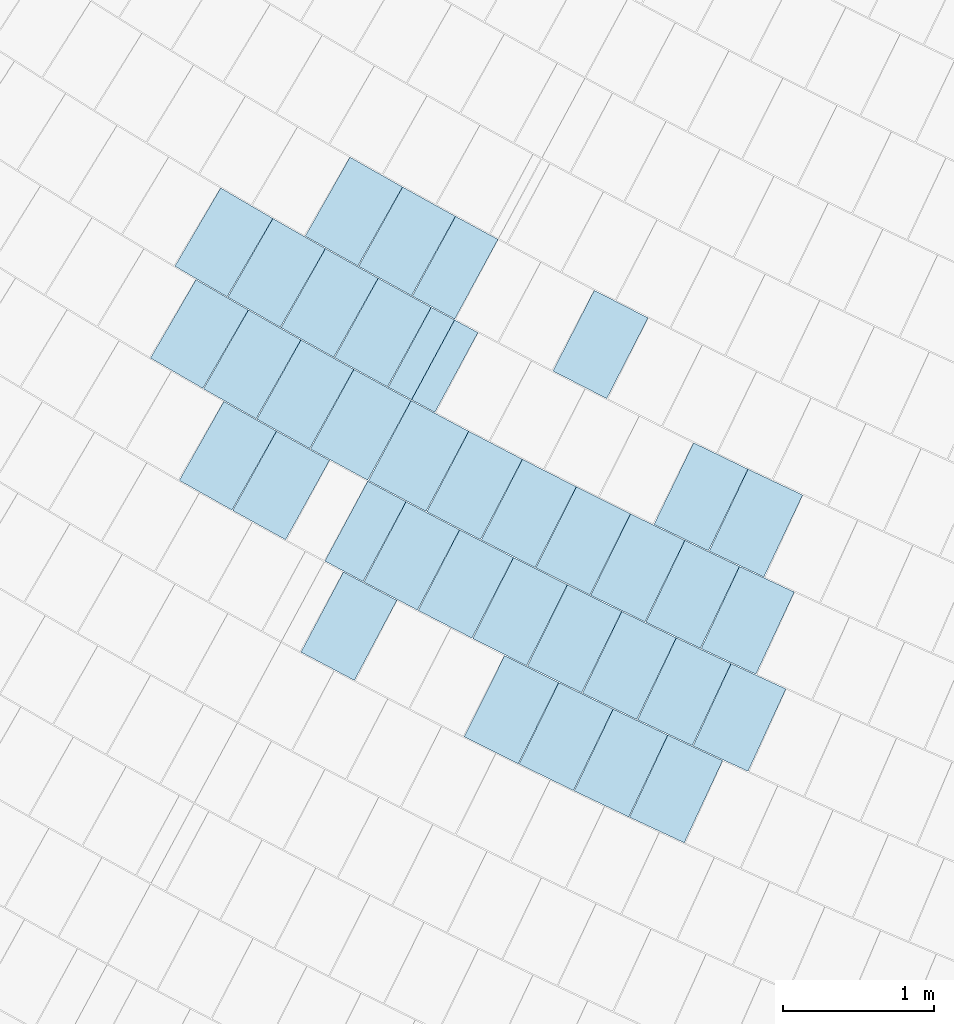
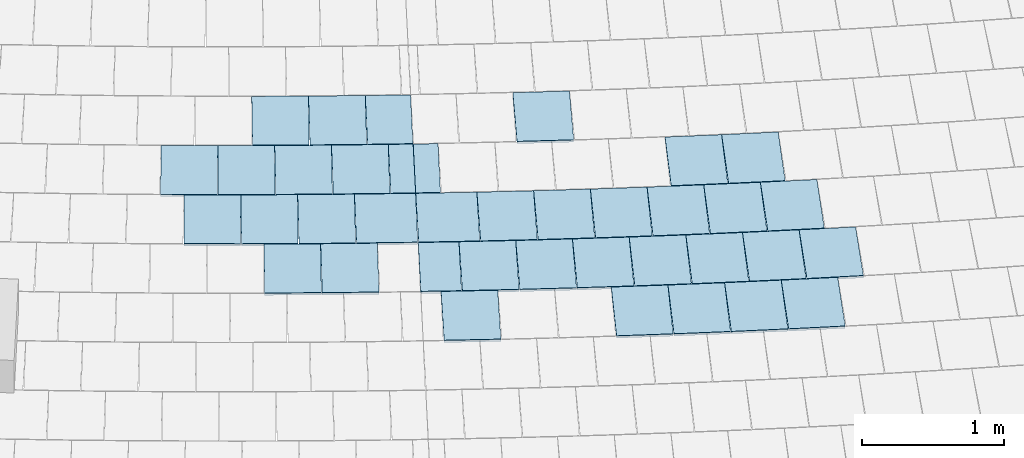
# One storey, part 106 of 438: 38 slabs.
"""IFC2X3 building model written with IfcOpenShell, lengths in millimetres."""

from ifc_helpers import new_model, entity, si_unit, converted_unit, derived_unit, direction, frame, frame_2d, origin, origin_2d_with_axis, place, context, subcontext, project, spatial, polyline, rectangle, outline, extrude, material, layer, layer_set, layer_usage, type_object, element, save


model = new_model("IFC2X3")

# Units and contexts
model_context = context("Model", 3, precision=0.01, world=origin(), true_north=direction((6.123031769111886e-17, 1.0)))
body_context = subcontext(model_context, "Body", "Model", "MODEL_VIEW")
ifc_project = project(units=[si_unit("LENGTHUNIT", "METRE", prefix="MILLI"), si_unit("AREAUNIT", "SQUARE_METRE"), si_unit("VOLUMEUNIT", "CUBIC_METRE"), converted_unit("PLANEANGLEUNIT", "DEGREE", entity("IfcRatioMeasure", 0.017453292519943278), si_unit("PLANEANGLEUNIT", "RADIAN"), dimensions=[0, 0, 0, 0, 0, 0, 0]), si_unit("MASSUNIT", "GRAM", prefix="KILO"), derived_unit("MASSDENSITYUNIT", [(si_unit("MASSUNIT", "GRAM", prefix="KILO"), 1), (si_unit("LENGTHUNIT", "METRE"), -3)]), derived_unit("MOMENTOFINERTIAUNIT", [(si_unit("LENGTHUNIT", "METRE"), 4)]), si_unit("TIMEUNIT", "SECOND"), si_unit("FREQUENCYUNIT", "HERTZ"), si_unit("THERMODYNAMICTEMPERATUREUNIT", "DEGREE_CELSIUS"), derived_unit("THERMALTRANSMITTANCEUNIT", [(si_unit("MASSUNIT", "GRAM", prefix="KILO"), 1), (si_unit("THERMODYNAMICTEMPERATUREUNIT", "KELVIN"), -1), (si_unit("TIMEUNIT", "SECOND"), -3)]), derived_unit("THERMALCONDUCTANCEUNIT", [(si_unit("MASSUNIT", "GRAM", prefix="KILO"), 1), (si_unit("LENGTHUNIT", "METRE"), 1), (si_unit("THERMODYNAMICTEMPERATUREUNIT", "KELVIN"), -1), (si_unit("TIMEUNIT", "SECOND"), -3)]), derived_unit("VOLUMETRICFLOWRATEUNIT", [(si_unit("LENGTHUNIT", "METRE"), 3), (si_unit("TIMEUNIT", "SECOND"), -1)]), derived_unit("MASSFLOWRATEUNIT", [(si_unit("MASSUNIT", "GRAM", prefix="KILO"), 1), (si_unit("TIMEUNIT", "SECOND"), -1)]), derived_unit("ROTATIONALFREQUENCYUNIT", [(si_unit("TIMEUNIT", "SECOND"), -1)]), si_unit("ELECTRICCURRENTUNIT", "AMPERE"), si_unit("ELECTRICVOLTAGEUNIT", "VOLT"), si_unit("POWERUNIT", "WATT"), converted_unit("FORCEUNIT", "KIP", entity("IfcRatioMeasure", 2.088543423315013e-05), si_unit("FORCEUNIT", "NEWTON"), dimensions=[1, 1, -2, 0, 0, 0, 0]), si_unit("ILLUMINANCEUNIT", "LUX"), si_unit("LUMINOUSFLUXUNIT", "LUMEN"), si_unit("LUMINOUSINTENSITYUNIT", "CANDELA"), derived_unit("USERDEFINED", [(si_unit("MASSUNIT", "GRAM", prefix="KILO"), -1), (si_unit("LENGTHUNIT", "METRE"), -2), (si_unit("TIMEUNIT", "SECOND"), 3), (si_unit("LUMINOUSFLUXUNIT", "LUMEN"), 1)]), derived_unit("USERDEFINED", [(si_unit("MASSUNIT", "GRAM", prefix="KILO"), 1), (si_unit("LENGTHUNIT", "METRE"), 3), (si_unit("TIMEUNIT", "SECOND"), -3), (si_unit("ELECTRICCURRENTUNIT", "AMPERE"), -2)]), derived_unit("USERDEFINED", [(si_unit("LENGTHUNIT", "METRE"), 2), (si_unit("TIMEUNIT", "SECOND"), -2)]), derived_unit("SOUNDPOWERUNIT", [(si_unit("MASSUNIT", "GRAM", prefix="KILO"), 1), (si_unit("LENGTHUNIT", "METRE"), 2), (si_unit("TIMEUNIT", "SECOND"), -3)]), derived_unit("SOUNDPRESSUREUNIT", [(si_unit("MASSUNIT", "GRAM", prefix="KILO"), 1), (si_unit("LENGTHUNIT", "METRE"), -1), (si_unit("TIMEUNIT", "SECOND"), -2)]), derived_unit("LINEARVELOCITYUNIT", [(si_unit("LENGTHUNIT", "METRE"), 1), (si_unit("TIMEUNIT", "SECOND"), -1)]), si_unit("PRESSUREUNIT", "PASCAL"), derived_unit("USERDEFINED", [(si_unit("LENGTHUNIT", "METRE"), -2), (si_unit("MASSUNIT", "GRAM", prefix="KILO"), 1), (si_unit("TIMEUNIT", "SECOND"), -2)]), derived_unit("LINEARFORCEUNIT", [(si_unit("MASSUNIT", "GRAM", prefix="KILO"), 1), (si_unit("LENGTHUNIT", "METRE"), 1), (si_unit("TIMEUNIT", "SECOND"), -2), (si_unit("LENGTHUNIT", "METRE"), -1)]), derived_unit("PLANARFORCEUNIT", [(si_unit("MASSUNIT", "GRAM", prefix="KILO"), 1), (si_unit("LENGTHUNIT", "METRE"), 1), (si_unit("TIMEUNIT", "SECOND"), -2), (si_unit("LENGTHUNIT", "METRE"), -2)]), derived_unit("SPECIFICHEATCAPACITYUNIT", [(si_unit("LENGTHUNIT", "METRE"), 2), (si_unit("TIMEUNIT", "SECOND"), -2), (si_unit("THERMODYNAMICTEMPERATUREUNIT", "KELVIN"), -1)]), derived_unit("VAPORPERMEABILITYUNIT", [(si_unit("TIMEUNIT", "SECOND"), 1), (si_unit("LENGTHUNIT", "METRE"), -1)]), derived_unit("DYNAMICVISCOSITYUNIT", [(si_unit("MASSUNIT", "GRAM", prefix="KILO"), 1), (si_unit("LENGTHUNIT", "METRE"), -1), (si_unit("TIMEUNIT", "SECOND"), -1)]), derived_unit("THERMALEXPANSIONCOEFFICIENTUNIT", [(si_unit("THERMODYNAMICTEMPERATUREUNIT", "KELVIN"), -1)])], contexts=[model_context])

# Site, building, storey
site_placement = place(None, frame((0.0, 0.0, 0.0), z_axis=(0.0, 0.0, 1.0), x_axis=(0.8191520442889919, 0.5735764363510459, 0.0)))
site = spatial("IfcSite", under=ifc_project, at=site_placement, Name="Default", CompositionType="ELEMENT")
building_placement = place(site_placement, origin())
building = spatial("IfcBuilding", under=site, at=building_placement, CompositionType="ELEMENT")
storey_placement = place(building_placement, origin())
storey = spatial("IfcBuildingStorey", under=building, at=storey_placement, Name="PLAN", CompositionType="ELEMENT", Elevation=0.0)

# Slabs
ifc_material = material(Name="Paint-01")
ifc_layer = layer(ifc_material, 20.00000000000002)
ifc_layer_set = layer_set([ifc_layer], Name="Floor:Slab-179:1000")
ifc_layer_usage = layer_usage(ifc_layer_set, "AXIS3", "POSITIVE", 0.0)
slab_type = type_object("IfcSlabType", Name="Floor:Slab-179:1000", PredefinedType="FLOOR", material=ifc_layer_set)
slab_1_placement = place(storey_placement, origin())
element("IfcSlab", 1, at=slab_1_placement, inside=storey, type_object=slab_type, material=ifc_layer_usage, Name="Floor:Slab-179:1000", ObjectType="Floor:Slab-179:1000", PredefinedType="FLOOR", context=body_context, shape_type="SweptSolid", body=[
    extrude(outline(polyline([(-200.00000134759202, -299.99999869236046), (200.0000045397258, -299.99999869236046), (200.0000013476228, 299.99999869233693), (-200.00000453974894, 299.9999986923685), (-200.00000134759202, -299.99999869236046)])), frame((-80661.75716893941, -87629.4757978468, 520.0), z_axis=(0.0, 0.0, -1.0), x_axis=(0.43849574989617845, -0.8987332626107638, 0.0)), (0.0, 0.0, 1.0), 20.000000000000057),
])
slab_2_placement = place(storey_placement, origin())
element("IfcSlab", 2, at=slab_2_placement, inside=storey, type_object=slab_type, material=ifc_layer_usage, Name="Floor:Slab-179:1000", ObjectType="Floor:Slab-179:1000", PredefinedType="FLOOR", context=body_context, shape_type="SweptSolid", body=[
    extrude(outline(polyline([(-159.8357111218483, -299.9999986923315), (159.8357143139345, -299.9999986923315), (159.8357111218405, 299.99999869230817), (-159.8357143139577, 299.99999869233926), (-159.8357111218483, -299.9999986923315)])), frame((-80501.49377957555, -87954.65114663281, 520.0), z_axis=(0.0, 0.0, -1.0), x_axis=(0.4465410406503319, -0.8947631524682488, 0.0)), (0.0, 0.0, 1.0), 20.000000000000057),
])
slab_3_placement = place(storey_placement, origin())
element("IfcSlab", 3, at=slab_3_placement, inside=storey, type_object=slab_type, material=ifc_layer_usage, Name="Floor:Slab-179:1000", ObjectType="Floor:Slab-179:1000", PredefinedType="FLOOR", context=body_context, shape_type="SweptSolid", body=[
    extrude(outline(polyline([(-200.00000134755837, -299.9999986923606), (200.00000453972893, -299.99999869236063), (200.0000013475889, 299.99999869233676), (-200.00000453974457, 299.9999986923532), (-200.00000134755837, -299.9999986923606)])), frame((-80836.70868583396, -87266.77875742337, 520.0), z_axis=(0.0, 0.0, -1.0), x_axis=(0.4304151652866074, -0.9026310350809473, 0.0)), (0.0, 0.0, 1.0), 20.000000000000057),
])
slab_4_placement = place(storey_placement, origin())
element("IfcSlab", 4, at=slab_4_placement, inside=storey, type_object=slab_type, material=ifc_layer_usage, Name="Floor:Slab-179:1000", ObjectType="Floor:Slab-179:1000", PredefinedType="FLOOR", context=body_context, shape_type="SweptSolid", body=[
    extrude(outline(polyline([(-200.0000013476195, -299.9999986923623), (200.00000453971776, -299.9999986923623), (200.00000134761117, 299.9999986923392), (-200.00000453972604, 299.9999986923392), (-200.0000013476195, -299.9999986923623)])), frame((-81487.67167908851, -87305.71940194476, 520.0), z_axis=(0.0, 0.0, -1.0), x_axis=(0.4255468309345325, -0.9049364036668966, 0.0)), (0.0, 0.0, 1.0), 20.000000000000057),
])
slab_5_placement = place(storey_placement, origin())
element("IfcSlab", 5, at=slab_5_placement, inside=storey, type_object=slab_type, material=ifc_layer_usage, Name="Floor:Slab-179:1000", ObjectType="Floor:Slab-179:1000", PredefinedType="FLOOR", context=body_context, shape_type="SweptSolid", body=[
    extrude(outline(polyline([(-87.62463995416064, -299.99999869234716), (87.6246431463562, -299.9999986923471), (87.62463995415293, 299.99999869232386), (-87.62464314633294, 299.99999869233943), (-87.62463995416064, -299.99999869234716)])), frame((-81009.68058432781, -88291.50491665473, 520.0), z_axis=(0.0, 0.0, -1.0), x_axis=(0.44942400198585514, -0.8933185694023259, 0.0)), (0.0, 0.0, 1.0), 20.000000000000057),
])
slab_6_placement = place(storey_placement, origin())
element("IfcSlab", 6, at=slab_6_placement, inside=storey, type_object=slab_type, material=ifc_layer_usage, Name="Floor:Slab-179:1000", ObjectType="Floor:Slab-179:1000", PredefinedType="FLOOR", context=body_context, shape_type="SweptSolid", body=[
    extrude(outline(polyline([(-200.0000013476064, -299.99999869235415), (200.0000045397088, -299.9999986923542), (200.0000013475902, 299.99999869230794), (-200.0000045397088, 299.9999986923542), (-200.0000013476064, -299.99999869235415)])), frame((-81314.71366506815, -87669.33151632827, 520.0), z_axis=(0.0, 0.0, -1.0), x_axis=(0.43354006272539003, -0.9011342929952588, 0.0)), (0.0, 0.0, 1.0), 19.999999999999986),
])
slab_7_placement = place(storey_placement, origin())
element("IfcSlab", 7, at=slab_7_placement, inside=storey, type_object=slab_type, material=ifc_layer_usage, Name="Floor:Slab-179:1000", ObjectType="Floor:Slab-179:1000", PredefinedType="FLOOR", context=body_context, shape_type="SweptSolid", body=[
    extrude(outline(polyline([(-200.00000134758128, -299.9999986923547), (200.00000453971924, -299.9999986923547), (200.00000134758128, 299.9999986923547), (-200.0000045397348, 299.9999986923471), (-200.00000134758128, -299.9999986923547)])), frame((-81138.54397109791, -88031.39847597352, 520.0), z_axis=(0.0, 0.0, -1.0), x_axis=(0.441499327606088, -0.8972615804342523, 0.0)), (0.0, 0.0, 1.0), 20.000000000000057),
])
slab_8_placement = place(storey_placement, origin())
element("IfcSlab", 8, at=slab_8_placement, inside=storey, type_object=slab_type, material=ifc_layer_usage, Name="Floor:Slab-179:1000", ObjectType="Floor:Slab-179:1000", PredefinedType="FLOOR", context=body_context, shape_type="SweptSolid", body=[
    extrude(outline(polyline([(-200.00000134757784, -299.99999869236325), (200.00000453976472, -299.9999986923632), (200.0000013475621, 299.999998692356), (-200.0000045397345, 299.9999986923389), (-200.00000134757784, -299.99999869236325)])), frame((-81657.40446227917, -86940.5906210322, 520.0), z_axis=(0.0, 0.0, -1.0), x_axis=(0.417520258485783, -0.9086676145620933, 0.0)), (0.0, 0.0, 1.0), 20.000000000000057),
])
slab_9_placement = place(storey_placement, origin())
element("IfcSlab", 9, at=slab_9_placement, inside=storey, type_object=slab_type, material=ifc_layer_usage, Name="Floor:Slab-179:1000", ObjectType="Floor:Slab-179:1000", PredefinedType="FLOOR", context=body_context, shape_type="SweptSolid", body=[
    extrude(outline(polyline([(-215.73772282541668, -299.9999986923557), (215.7377260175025, -299.99999869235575), (215.7377228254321, 299.99999869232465), (-215.7377260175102, 299.9999986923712), (-215.73772282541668, -299.9999986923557)])), frame((-81607.90374843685, -88447.17682607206, 520.0), z_axis=(0.0, 0.0, -1.0), x_axis=(0.4444188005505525, -0.8958191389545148, 0.0)), (0.0, 0.0, 1.0), 20.000000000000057),
])
slab_10_placement = place(storey_placement, origin())
element("IfcSlab", 10, at=slab_10_placement, inside=storey, type_object=slab_type, material=ifc_layer_usage, Name="Floor:Slab-179:1000", ObjectType="Floor:Slab-179:1000", PredefinedType="FLOOR", context=body_context, shape_type="SweptSolid", body=[
    extrude(outline(polyline([(-200.00000134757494, -299.99999869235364), (200.00000453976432, -299.99999869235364), (200.00000134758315, 299.9999986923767), (-200.0000045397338, 299.99999869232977), (-200.00000134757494, -299.99999869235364)])), frame((-81966.44109444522, -87708.64419158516, 520.0), z_axis=(0.0, 0.0, -1.0), x_axis=(0.4287026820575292, -0.9034456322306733, 0.0)), (0.0, 0.0, 1.0), 20.000000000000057),
])
slab_11_placement = place(storey_placement, origin())
element("IfcSlab", 11, at=slab_11_placement, inside=storey, type_object=slab_type, material=ifc_layer_usage, Name="Floor:Slab-179:1000", ObjectType="Floor:Slab-179:1000", PredefinedType="FLOOR", context=body_context, shape_type="SweptSolid", body=[
    extrude(outline(polyline([(-200.00000134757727, -299.99999869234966), (200.00000453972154, -299.9999986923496), (200.0000013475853, 299.9999986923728), (-200.0000045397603, 299.9999986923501), (-200.00000134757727, -299.99999869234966)])), frame((-81792.25139849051, -88071.62907817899, 520.0), z_axis=(0.0, 0.0, -1.0), x_axis=(0.43657739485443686, -0.8996667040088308, 0.0)), (0.0, 0.0, 1.0), 20.000000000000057),
])
slab_12_placement = place(storey_placement, origin())
element("IfcSlab", 12, at=slab_12_placement, inside=storey, type_object=slab_type, material=ifc_layer_usage, Name="Floor:Slab-179:1000", ObjectType="Floor:Slab-179:1000", PredefinedType="FLOOR", context=body_context, shape_type="SweptSolid", body=[
    extrude(outline(polyline([(-200.00000134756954, -299.9999986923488), (200.000004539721, -299.9999986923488), (200.00000134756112, 299.9999986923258), (-200.0000045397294, 299.9999986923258), (-200.00000134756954, -299.9999986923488)])), frame((-82137.45368642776, -87344.15170681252, 520.0), z_axis=(0.0, 0.0, -1.0), x_axis=(0.4207952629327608, -0.9071556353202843, 0.0)), (0.0, 0.0, 1.0), 20.000000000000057),
])
slab_13_placement = place(storey_placement, origin())
element("IfcSlab", 13, at=slab_13_placement, inside=storey, type_object=slab_type, material=ifc_layer_usage, Name="Floor:Slab-179:1000", ObjectType="Floor:Slab-179:1000", PredefinedType="FLOOR", context=body_context, shape_type="SweptSolid", body=[
    extrude(outline(polyline([(-200.0000013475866, -299.9999986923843), (200.0000045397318, -299.9999986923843), (200.0000013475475, 299.99999869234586), (-200.00000453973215, 299.9999986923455), (-200.0000013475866, -299.9999986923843)])), frame((-82269.34103647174, -88473.67992356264, 520.0), z_axis=(0.0, 0.0, -1.0), x_axis=(0.4395307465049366, -0.8982275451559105, 0.0)), (0.0, 0.0, 1.0), 19.999999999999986),
])
slab_14_placement = place(storey_placement, origin())
element("IfcSlab", 14, at=slab_14_placement, inside=storey, type_object=slab_type, material=ifc_layer_usage, Name="Floor:Slab-179:1000", ObjectType="Floor:Slab-179:1000", PredefinedType="FLOOR", context=body_context, shape_type="SweptSolid", body=[
    extrude(outline(polyline([(-200.00000134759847, -299.99999869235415), (200.0000045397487, -299.99999869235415), (200.00000134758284, 299.99999869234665), (-200.00000453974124, 299.9999986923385), (-200.00000134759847, -299.99999869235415)])), frame((-82444.728114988, -88111.30991890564, 520.0), z_axis=(0.0, 0.0, -1.0), x_axis=(0.4317712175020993, -0.9019831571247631, 0.0)), (0.0, 0.0, 1.0), 19.999999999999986),
])
slab_15_placement = place(storey_placement, origin())
element("IfcSlab", 15, at=slab_15_placement, inside=storey, type_object=slab_type, material=ifc_layer_usage, Name="Floor:Slab-179:1000", ObjectType="Floor:Slab-179:1000", PredefinedType="FLOOR", context=body_context, shape_type="SweptSolid", body=[
    extrude(outline(polyline([(-200.00000453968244, -299.9999986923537), (200.00000134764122, -299.9999986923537), (200.00000453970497, 299.99999869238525), (-200.00000134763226, 299.99999869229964), (-200.00000453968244, -299.9999986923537)])), frame((-80005.45989939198, -88921.2760745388, 520.0), z_axis=(0.0, 0.0, -1.0), x_axis=(0.4672759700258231, -0.8841115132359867, 0.0)), (0.0, 0.0, 1.0), 20.000000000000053),
])
slab_16_placement = place(storey_placement, origin())
element("IfcSlab", 16, at=slab_16_placement, inside=storey, type_object=slab_type, material=ifc_layer_usage, Name="Floor:Slab-179:1000", ObjectType="Floor:Slab-179:1000", PredefinedType="FLOOR", context=body_context, shape_type="SweptSolid", body=[
    extrude(outline(polyline([(-87.62464065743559, -299.9999986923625), (87.62463746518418, -299.9999986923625), (87.62464065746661, 299.99999869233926), (-87.62463746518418, 299.9999986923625), (-87.62464065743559, -299.9999986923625)])), frame((-80930.85839811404, -88448.3906742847, 520.0), z_axis=(0.0, 0.0, -1.0), x_axis=(0.4484580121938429, -0.893803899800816, 0.0)), (0.0, 0.0, 1.0), 20.000000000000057),
])
slab_17_placement = place(storey_placement, origin())
element("IfcSlab", 17, at=slab_17_placement, inside=storey, type_object=slab_type, material=ifc_layer_usage, Name="Floor:Slab-179:1000", ObjectType="Floor:Slab-179:1000", PredefinedType="FLOOR", context=body_context, shape_type="SweptSolid", body=[
    extrude(outline(polyline([(-200.0000045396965, -299.999998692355), (200.00000134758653, -299.99999869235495), (200.00000453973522, 299.99999869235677), (-200.00000134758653, 299.99999869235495), (-200.0000045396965, -299.999998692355)])), frame((-80038.87111077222, -90126.84920509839, 520.0), z_axis=(0.0, 0.0, -1.0), x_axis=(0.4875633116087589, -0.8730876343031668, 0.0)), (0.0, 0.0, 1.0), 20.000000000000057),
])
slab_18_placement = place(storey_placement, origin())
element("IfcSlab", 18, at=slab_18_placement, inside=storey, type_object=slab_type, material=ifc_layer_usage, Name="Floor:Slab-179:1000", ObjectType="Floor:Slab-179:1000", PredefinedType="FLOOR", context=body_context, shape_type="SweptSolid", body=[
    extrude(outline(polyline([(-200.00000453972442, -299.999998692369), (200.00000134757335, -299.99999869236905), (200.00000453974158, 299.99999869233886), (-200.00000134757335, 299.99999869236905), (-200.00000453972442, -299.999998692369)])), frame((-79840.99906557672, -90477.52697466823, 520.0), z_axis=(0.0, 0.0, -1.0), x_axis=(0.4952722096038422, -0.8687378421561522, 0.0)), (0.0, 0.0, 1.0), 20.000000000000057),
])
slab_19_placement = place(storey_placement, origin())
element("IfcSlab", 19, at=slab_19_placement, inside=storey, type_object=slab_type, material=ifc_layer_usage, Name="Floor:Slab-179:1000", ObjectType="Floor:Slab-179:1000", PredefinedType="FLOOR", context=body_context, shape_type="SweptSolid", body=[
    extrude(outline(polyline([(-215.73772601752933, -299.9999986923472), (215.73772282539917, -299.9999986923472), (215.73772601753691, 299.99999869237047), (-215.73772282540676, 299.9999986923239), (-215.73772601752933, -299.9999986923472)])), frame((-81412.83765756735, -88835.4316172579, 520.0), z_axis=(0.0, 0.0, -1.0), x_axis=(0.4534518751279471, -0.8912807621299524, 0.0)), (0.0, 0.0, 1.0), 20.000000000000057),
])
slab_20_placement = place(storey_placement, origin())
element("IfcSlab", 20, at=slab_20_placement, inside=storey, type_object=slab_type, material=ifc_layer_usage, Name="Floor:Slab-179:1000", ObjectType="Floor:Slab-179:1000", PredefinedType="FLOOR", context=body_context, shape_type="SweptSolid", body=[
    extrude(outline(polyline([(-200.00000453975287, -299.999998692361), (200.00000134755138, -299.9999986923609), (200.0000045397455, 299.9999986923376), (-200.00000134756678, 299.99999869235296), (-200.00000453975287, -299.999998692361)])), frame((-81221.56871178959, -89207.50198346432, 520.0), z_axis=(0.0, 0.0, -1.0), x_axis=(0.4612193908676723, -0.887286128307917, 0.0)), (0.0, 0.0, 1.0), 19.99999999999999),
])
slab_21_placement = place(storey_placement, origin())
element("IfcSlab", 21, at=slab_21_placement, inside=storey, type_object=slab_type, material=ifc_layer_usage, Name="Floor:Slab-179:1000", ObjectType="Floor:Slab-179:1000", PredefinedType="FLOOR", context=body_context, shape_type="SweptSolid", body=[
    extrude(outline(polyline([(-200.0000045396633, -299.9999986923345), (200.00000134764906, -299.9999986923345), (200.00000453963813, 299.99999869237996), (-200.00000134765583, 299.99999869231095), (-200.0000045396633, -299.9999986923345)])), frame((-80650.50649281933, -90271.79256625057, 520.0), z_axis=(0.0, 0.0, -1.0), x_axis=(0.48430845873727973, -0.8748973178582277, 0.0)), (0.0, 0.0, 1.0), 19.99999999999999),
])
slab_22_placement = place(storey_placement, origin())
element("IfcSlab", 22, at=slab_22_placement, inside=storey, type_object=slab_type, material=ifc_layer_usage, Name="Floor:Slab-179:1000", ObjectType="Floor:Slab-179:1000", PredefinedType="FLOOR", context=body_context, shape_type="SweptSolid", body=[
    extrude(outline(polyline([(-200.00000453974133, -299.99999869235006), (200.00000134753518, -299.99999869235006), (200.00000453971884, 299.9999986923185), (-200.00000134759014, 299.9999986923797), (-200.00000453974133, -299.99999869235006)])), frame((-81034.31578871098, -89563.92367313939, 520.0), z_axis=(0.0, 0.0, -1.0), x_axis=(0.4689517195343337, -0.8832238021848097, 0.0)), (0.0, 0.0, 1.0), 20.000000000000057),
])
slab_23_placement = place(storey_placement, origin())
element("IfcSlab", 23, at=slab_23_placement, inside=storey, type_object=slab_type, material=ifc_layer_usage, Name="Floor:Slab-179:1000", ObjectType="Floor:Slab-179:1000", PredefinedType="FLOOR", context=body_context, shape_type="SweptSolid", body=[
    extrude(outline(polyline([(-200.0000045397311, -299.99999869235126), (200.00000134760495, -299.99999869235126), (200.00000453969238, 299.99999869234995), (-200.00000134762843, 299.99999869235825), (-200.0000045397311, -299.99999869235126)])), frame((-80843.95687480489, -89918.69622276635, 520.0), z_axis=(0.0, 0.0, -1.0), x_axis=(0.4766482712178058, -0.8790940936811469, 0.0)), (0.0, 0.0, 1.0), 19.99999999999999),
])
slab_24_placement = place(storey_placement, origin())
element("IfcSlab", 24, at=slab_24_placement, inside=storey, type_object=slab_type, material=ifc_layer_usage, Name="Floor:Slab-179:1000", ObjectType="Floor:Slab-179:1000", PredefinedType="FLOOR", context=body_context, shape_type="SweptSolid", body=[
    extrude(outline(polyline([(-200.0000045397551, -299.9999986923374), (200.00000134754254, -299.9999986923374), (200.00000453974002, 299.99999869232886), (-200.0000013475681, 299.9999986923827), (-200.0000045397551, -299.9999986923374)])), frame((-80453.97940135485, -90623.18576537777, 520.0), z_axis=(0.0, 0.0, -1.0), x_axis=(0.4919316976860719, -0.8706337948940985, 0.0)), (0.0, 0.0, 1.0), 20.000000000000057),
])
slab_25_placement = place(storey_placement, origin())
element("IfcSlab", 25, at=slab_25_placement, inside=storey, type_object=slab_type, material=ifc_layer_usage, Name="Floor:Slab-179:1000", ObjectType="Floor:Slab-179:1000", PredefinedType="FLOOR", context=body_context, shape_type="SweptSolid", body=[
    extrude(rectangle(XDim=399.9999438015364, YDim=599.9999042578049, at=frame_2d((-3.154809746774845e-12, -1.1851852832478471e-11), x_axis=(1.0, 0.0))), frame((-80254.21051714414, -90972.93804912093, 520.0), z_axis=(0.0, 0.0, -1.0), x_axis=(0.49999999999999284, -0.8660254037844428, 0.0)), (0.0, 0.0, 1.0), 20.000000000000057),
])
slab_26_placement = place(storey_placement, origin())
element("IfcSlab", 26, at=slab_26_placement, inside=storey, type_object=slab_type, material=ifc_layer_usage, Name="Floor:Slab-179:1000", ObjectType="Floor:Slab-179:1000", PredefinedType="FLOOR", context=body_context, shape_type="SweptSolid", body=[
    extrude(outline(polyline([(-200.00000453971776, -299.99999869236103), (200.00000134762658, -299.99999869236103), (200.00000453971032, 299.99999869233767), (-200.0000013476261, 299.9999986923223), (-200.00000453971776, -299.99999869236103)])), frame((-81828.91587998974, -89350.29141662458, 520.0), z_axis=(0.0, 0.0, -1.0), x_axis=(0.45830186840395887, -0.8887966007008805, 0.0)), (0.0, 0.0, 1.0), 19.99999999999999),
])
slab_27_placement = place(storey_placement, origin())
element("IfcSlab", 27, at=slab_27_placement, inside=storey, type_object=slab_type, material=ifc_layer_usage, Name="Floor:Slab-179:1000", ObjectType="Floor:Slab-179:1000", PredefinedType="FLOOR", context=body_context, shape_type="SweptSolid", body=[
    extrude(outline(polyline([(-143.6880142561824, -299.99999869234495), (143.68801266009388, -299.99999869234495), (143.6880158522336, 299.9999986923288), (-143.68801425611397, 299.99999869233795), (-143.6880142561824, -299.99999869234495)])), frame((-81986.500704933, -89041.95605949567, 520.0), z_axis=(0.0, 0.0, -1.0), x_axis=(0.45062294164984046, -0.8927143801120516, 0.0)), (0.0, 0.0, 1.0), 20.000000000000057),
])
slab_28_placement = place(storey_placement, origin())
element("IfcSlab", 28, at=slab_28_placement, inside=storey, type_object=slab_type, material=ifc_layer_usage, Name="Floor:Slab-179:1000", ObjectType="Floor:Slab-179:1000", PredefinedType="FLOOR", context=body_context, shape_type="SweptSolid", body=[
    extrude(outline(polyline([(-200.00000453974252, -299.9999986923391), (200.00000134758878, -299.99999869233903), (200.0000045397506, 299.99999869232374), (-200.00000134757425, 299.9999986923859), (-200.00000453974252, -299.9999986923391)])), frame((-81642.87100678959, -89707.30675626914, 520.0), z_axis=(0.0, 0.0, -1.0), x_axis=(0.465946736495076, -0.8848127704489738, 0.0)), (0.0, 0.0, 1.0), 20.000000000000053),
])
slab_29_placement = place(storey_placement, origin())
element("IfcSlab", 29, at=slab_29_placement, inside=storey, type_object=slab_type, material=ifc_layer_usage, Name="Floor:Slab-179:1000", ObjectType="Floor:Slab-179:1000", PredefinedType="FLOOR", context=body_context, shape_type="SweptSolid", body=[
    extrude(outline(polyline([(-200.00000453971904, -299.99999869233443), (200.00000134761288, -299.9999986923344), (200.0000045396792, 299.99999869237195), (-200.00000134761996, 299.99999869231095), (-200.00000453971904, -299.99999869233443)])), frame((-81453.75538523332, -90062.7050247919, 520.0), z_axis=(0.0, 0.0, -1.0), x_axis=(0.4735569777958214, -0.8807631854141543, 0.0)), (0.0, 0.0, 1.0), 20.000000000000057),
])
slab_30_placement = place(storey_placement, origin())
element("IfcSlab", 30, at=slab_30_placement, inside=storey, type_object=slab_type, material=ifc_layer_usage, Name="Floor:Slab-179:1000", ObjectType="Floor:Slab-179:1000", PredefinedType="FLOOR", context=body_context, shape_type="SweptSolid", body=[
    extrude(outline(polyline([(-200.0000045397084, -299.9999986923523), (200.00000134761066, -299.9999986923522), (200.0000045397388, 299.999998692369), (-200.0000013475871, 299.99999869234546), (-200.0000045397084, -299.9999986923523)])), frame((-81261.58306943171, -90416.45981080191, 520.0), z_axis=(0.0, 0.0, -1.0), x_axis=(0.4811320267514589, -0.87664814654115, 0.0)), (0.0, 0.0, 1.0), 20.000000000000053),
])
slab_31_placement = place(storey_placement, origin())
element("IfcSlab", 31, at=slab_31_placement, inside=storey, type_object=slab_type, material=ifc_layer_usage, Name="Floor:Slab-179:1000", ObjectType="Floor:Slab-179:1000", PredefinedType="FLOOR", context=body_context, shape_type="SweptSolid", body=[
    extrude(outline(polyline([(-200.00000453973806, -299.9999986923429), (200.0000013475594, -299.9999986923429), (200.00000453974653, 299.9999986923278), (-200.00000134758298, 299.99999869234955), (-200.00000453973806, -299.9999986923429)])), frame((-81066.36834065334, -90768.54482504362, 520.0), z_axis=(0.0, 0.0, -1.0), x_axis=(0.48867132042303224, -0.8724679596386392, 0.0)), (0.0, 0.0, 1.0), 20.000000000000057),
])
slab_32_placement = place(storey_placement, origin())
element("IfcSlab", 32, at=slab_32_placement, inside=storey, type_object=slab_type, material=ifc_layer_usage, Name="Floor:Slab-179:1000", ObjectType="Floor:Slab-179:1000", PredefinedType="FLOOR", context=body_context, shape_type="SweptSolid", body=[
    extrude(outline(polyline([(-200.0000045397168, -299.9999986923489), (200.00000134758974, -299.99999869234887), (200.00000453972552, 299.9999986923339), (-200.0000013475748, 299.99999869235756), (-200.0000045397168, -299.9999986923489)])), frame((-80666.86989864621, -91467.60100358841, 520.0), z_axis=(0.0, 0.0, -1.0), x_axis=(0.5036404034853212, -0.8639133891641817, 0.0)), (0.0, 0.0, 1.0), 20.000000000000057),
])
slab_33_placement = place(storey_placement, origin())
element("IfcSlab", 33, at=slab_33_placement, inside=storey, type_object=slab_type, material=ifc_layer_usage, Name="Floor:Slab-179:1000", ObjectType="Floor:Slab-179:1000", PredefinedType="FLOOR", context=body_context, shape_type="SweptSolid", body=[
    extrude(outline(polyline([(-200.00000453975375, -299.99999869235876), (200.0000013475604, -299.99999869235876), (200.00000453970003, 299.999998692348), (-200.00000134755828, 299.9999986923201), (-200.00000453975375, -299.99999869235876)])), frame((-80868.12570626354, -91118.93390235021, 520.0), z_axis=(0.0, 0.0, -1.0), x_axis=(0.4961742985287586, -0.8682229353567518, 0.0)), (0.0, 0.0, 1.0), 20.000000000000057),
])
slab_34_placement = place(storey_placement, origin())
element("IfcSlab", 34, at=slab_34_placement, inside=storey, type_object=slab_type, material=ifc_layer_usage, Name="Floor:Slab-179:1000", ObjectType="Floor:Slab-179:1000", PredefinedType="FLOOR", context=body_context, shape_type="SweptSolid", body=[
    extrude(rectangle(XDim=399.9999824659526, YDim=599.9999622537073, at=origin_2d_with_axis()), frame((-81281.34207706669, -91613.98874682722, 520.0), z_axis=(0.0, 0.0, -1.0), x_axis=(0.49999999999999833, -0.8660254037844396, 0.0)), (0.0, 0.0, 1.0), 20.000000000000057),
])
slab_35_placement = place(storey_placement, origin())
element("IfcSlab", 35, at=slab_35_placement, inside=storey, type_object=slab_type, material=ifc_layer_usage, Name="Floor:Slab-179:1000", ObjectType="Floor:Slab-179:1000", PredefinedType="FLOOR", context=body_context, shape_type="SweptSolid", body=[
    extrude(outline(polyline([(-200.00000134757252, -299.9999986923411), (200.00000453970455, -299.9999986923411), (200.0000013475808, 299.9999986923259), (-200.00000453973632, 299.9999986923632), (-200.00000134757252, -299.9999986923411)])), frame((-81872.12149783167, -90560.86357835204, 520.0), z_axis=(0.0, 0.0, -1.0), x_axis=(0.4780312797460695, -0.8783428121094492, 0.0)), (0.0, 0.0, 1.0), 19.999999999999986),
])
slab_36_placement = place(storey_placement, origin())
element("IfcSlab", 36, at=slab_36_placement, inside=storey, type_object=slab_type, material=ifc_layer_usage, Name="Floor:Slab-179:1000", ObjectType="Floor:Slab-179:1000", PredefinedType="FLOOR", context=body_context, shape_type="SweptSolid", body=[
    extrude(outline(polyline([(-200.00000134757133, -299.99999869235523), (200.0000045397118, -299.99999869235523), (200.0000013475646, 299.9999986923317), (-200.0000045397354, 299.999998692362), (-200.00000134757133, -299.99999869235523)])), frame((-81678.18768691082, -90913.6178857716, 520.0), z_axis=(0.0, 0.0, -1.0), x_axis=(0.4854882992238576, -0.8742431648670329, 0.0)), (0.0, 0.0, 1.0), 20.000000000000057),
])
slab_37_placement = place(storey_placement, origin())
element("IfcSlab", 37, at=slab_37_placement, inside=storey, type_object=slab_type, material=ifc_layer_usage, Name="Floor:Slab-179:1000", ObjectType="Floor:Slab-179:1000", PredefinedType="FLOOR", context=body_context, shape_type="SweptSolid", body=[
    extrude(outline(polyline([(-200.00000134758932, -299.999998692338), (200.00000453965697, -299.99999869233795), (200.00000134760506, 299.99999869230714), (-200.0000045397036, 299.999998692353), (-200.00000134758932, -299.999998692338)])), frame((-82435.81497196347, -89492.8782876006, 520.0), z_axis=(0.0, 0.0, -1.0), x_axis=(0.45545469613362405, -0.8902589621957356, 0.0)), (0.0, 0.0, 1.0), 19.999999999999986),
])
slab_38_placement = place(storey_placement, origin())
element("IfcSlab", 38, at=slab_38_placement, inside=storey, type_object=slab_type, material=ifc_layer_usage, Name="Floor:Slab-179:1000", ObjectType="Floor:Slab-179:1000", PredefinedType="FLOOR", context=body_context, shape_type="SweptSolid", body=[
    extrude(outline(polyline([(-200.0000013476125, -299.99999869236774), (200.00000453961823, -299.9999986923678), (200.00000134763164, 299.9999986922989), (-200.000004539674, 299.9999986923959), (-200.0000013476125, -299.99999869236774)])), frame((-81481.25910710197, -91264.70912587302, 520.0), z_axis=(0.0, 0.0, -1.0), x_axis=(0.4929101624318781, -0.870080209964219, 0.0)), (0.0, 0.0, 1.0), 20.00000000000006),
])

save(model, "model.ifc")
